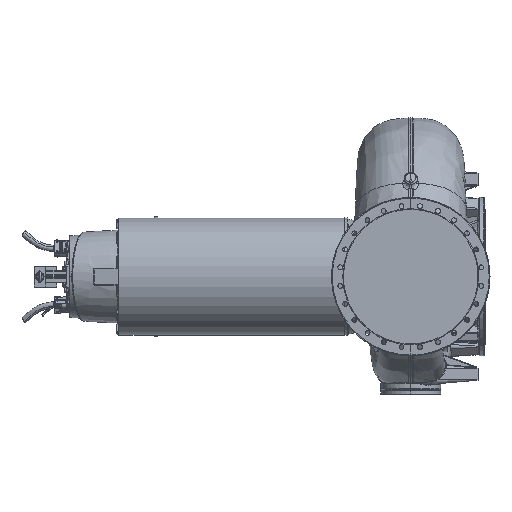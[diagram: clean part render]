
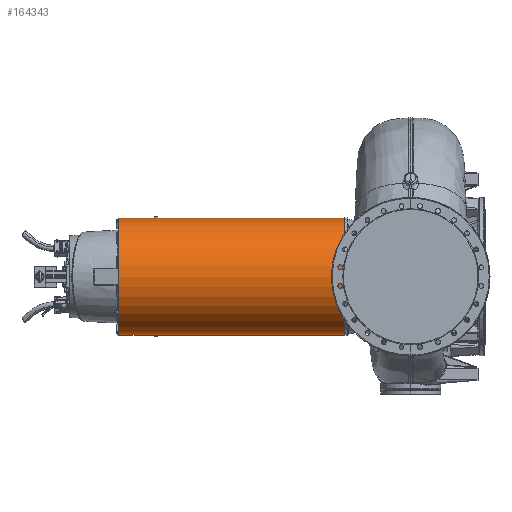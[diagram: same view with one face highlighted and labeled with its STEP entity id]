
A CAD part, left-side view. The second image highlights one B-rep face of the part: STEP entity #164343.
In plain terms, the highlighted cylindrical face has radius 391.5 mm (diameter 783 mm), a partial arc.
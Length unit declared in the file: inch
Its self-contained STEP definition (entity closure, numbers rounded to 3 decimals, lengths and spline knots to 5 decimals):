
#7380 = EDGE_CURVE ( 'NONE', #226743, #277040, #169925, .T. ) ;
#7594 = LINE ( 'NONE', #74207, #30099 ) ;
#8089 = VERTEX_POINT ( 'NONE', #119326 ) ;
#9248 = ORIENTED_EDGE ( 'NONE', *, *, #110161, .T. ) ;
#15208 = CARTESIAN_POINT ( 'NONE',  ( -0.37402, 67.30255, 15.40885 ) ) ;
#18709 = LINE ( 'NONE', #188247, #37288 ) ;
#18912 = FACE_OUTER_BOUND ( 'NONE', #35296, .T. ) ;
#28326 = EDGE_CURVE ( 'NONE', #269230, #98952, #147126, .T. ) ;
#30099 = VECTOR ( 'NONE', #52227, 39.37008 ) ;
#33262 = DIRECTION ( 'NONE',  ( 0., 0., 1. ) ) ;
#33633 = AXIS2_PLACEMENT_3D ( 'NONE', #125199, #173160, #33262 ) ;
#33972 = EDGE_CURVE ( 'NONE', #296854, #145871, #203126, .T. ) ;
#35296 = EDGE_LOOP ( 'NONE', ( #114167, #223470, #149708, #177903, #260466, #256831, #9248, #127943, #38079, #239497, #108626, #241133 ) ) ;
#37288 = VECTOR ( 'NONE', #189261, 39.37008 ) ;
#38079 = ORIENTED_EDGE ( 'NONE', *, *, #116270, .F. ) ;
#39060 = EDGE_CURVE ( 'NONE', #145871, #8089, #237482, .T. ) ;
#50132 = VECTOR ( 'NONE', #255671, 39.37008 ) ;
#50809 = B_SPLINE_CURVE_WITH_KNOTS ( 'NONE', 3,
 ( #219786, #199888, #196808, #56954 ),
 .UNSPECIFIED., .F., .F.,
 ( 4, 4 ),
 ( 0., 1. ),
 .UNSPECIFIED. ) ;
#52227 = DIRECTION ( 'NONE',  ( 0., 1., 0. ) ) ;
#52381 = CARTESIAN_POINT ( 'NONE',  ( 0., 82.4547, 15.41339 ) ) ;
#54625 = VECTOR ( 'NONE', #234504, 39.37008 ) ;
#56954 = CARTESIAN_POINT ( 'NONE',  ( -0.37402, 67.30255, -15.40885 ) ) ;
#60734 = DIRECTION ( 'NONE',  ( 0., 1., 0. ) ) ;
#63664 = CARTESIAN_POINT ( 'NONE',  ( 0., 17.32283, 15.41339 ) ) ;
#70212 = VERTEX_POINT ( 'NONE', #112661 ) ;
#71029 = VECTOR ( 'NONE', #60734, 39.37008 ) ;
#72514 = CARTESIAN_POINT ( 'NONE',  ( -0.12468, 67.44651, 15.41339 ) ) ;
#74207 = CARTESIAN_POINT ( 'NONE',  ( 0., 82.4547, -15.41339 ) ) ;
#76419 = DIRECTION ( 'NONE',  ( 0., 1., 0. ) ) ;
#78029 = CARTESIAN_POINT ( 'NONE',  ( -0.12468, 66.72672, -15.41339 ) ) ;
#79051 = CARTESIAN_POINT ( 'NONE',  ( -0.24937, 66.7987, -15.41187 ) ) ;
#85950 = CARTESIAN_POINT ( 'NONE',  ( 0., 17.32283, -15.41339 ) ) ;
#93290 = EDGE_CURVE ( 'NONE', #112917, #139243, #286093, .T. ) ;
#94910 = CARTESIAN_POINT ( 'NONE',  ( -0.37402, 66.87068, 15.40885 ) ) ;
#98937 = CARTESIAN_POINT ( 'NONE',  ( 0., 66.65474, -15.41339 ) ) ;
#98952 = VERTEX_POINT ( 'NONE', #178843 ) ;
#105613 = CARTESIAN_POINT ( 'NONE',  ( -0.37402, 82.4547, 15.40885 ) ) ;
#106937 = CARTESIAN_POINT ( 'NONE',  ( -0.24937, 66.7987, 15.41187 ) ) ;
#107379 = DIRECTION ( 'NONE',  ( 0., 1., 0. ) ) ;
#108626 = ORIENTED_EDGE ( 'NONE', *, *, #286737, .T. ) ;
#110161 = EDGE_CURVE ( 'NONE', #8089, #112917, #223212, .T. ) ;
#112661 = CARTESIAN_POINT ( 'NONE',  ( 0., 67.51849, -15.41339 ) ) ;
#112917 = VERTEX_POINT ( 'NONE', #121735 ) ;
#114167 = ORIENTED_EDGE ( 'NONE', *, *, #246429, .F. ) ;
#116270 = EDGE_CURVE ( 'NONE', #70212, #139243, #7594, .T. ) ;
#119326 = CARTESIAN_POINT ( 'NONE',  ( 0., 67.51849, 15.41339 ) ) ;
#121735 = CARTESIAN_POINT ( 'NONE',  ( 0., 76.92913, 15.41339 ) ) ;
#125016 = VECTOR ( 'NONE', #76419, 39.37008 ) ;
#125199 = CARTESIAN_POINT ( 'NONE',  ( 0., 76.92913, 0. ) ) ;
#127943 = ORIENTED_EDGE ( 'NONE', *, *, #93290, .T. ) ;
#139243 = VERTEX_POINT ( 'NONE', #220447 ) ;
#145090 = VERTEX_POINT ( 'NONE', #166139 ) ;
#145871 = VERTEX_POINT ( 'NONE', #15208 ) ;
#147126 = B_SPLINE_CURVE_WITH_KNOTS ( 'NONE', 3,
 ( #290927, #79051, #78029, #98937 ),
 .UNSPECIFIED., .F., .F.,
 ( 4, 4 ),
 ( 0., 1. ),
 .UNSPECIFIED. ) ;
#149708 = ORIENTED_EDGE ( 'NONE', *, *, #7380, .T. ) ;
#160934 = DIRECTION ( 'NONE',  ( 0., 1., 0. ) ) ;
#164343 = ADVANCED_FACE ( 'NONE', ( #18912 ), #194404, .T. ) ;
#164415 = LINE ( 'NONE', #252594, #71029 ) ;
#166139 = CARTESIAN_POINT ( 'NONE',  ( -0.37402, 67.30255, -15.40885 ) ) ;
#167459 = CARTESIAN_POINT ( 'NONE',  ( -0.37402, 67.30255, 15.40885 ) ) ;
#169925 = LINE ( 'NONE', #52381, #125016 ) ;
#173160 = DIRECTION ( 'NONE',  ( 0., -1., 0. ) ) ;
#174186 = CARTESIAN_POINT ( 'NONE',  ( 0., 17.32283, 0. ) ) ;
#177903 = ORIENTED_EDGE ( 'NONE', *, *, #199681, .T. ) ;
#178843 = CARTESIAN_POINT ( 'NONE',  ( 0., 66.65474, -15.41339 ) ) ;
#182793 = CARTESIAN_POINT ( 'NONE',  ( 0., 82.4547, 0. ) ) ;
#188247 = CARTESIAN_POINT ( 'NONE',  ( -0.37402, 82.4547, -15.40885 ) ) ;
#189261 = DIRECTION ( 'NONE',  ( 0., -1., 0. ) ) ;
#194404 = CYLINDRICAL_SURFACE ( 'NONE', #306772, 15.41339 ) ;
#196808 = CARTESIAN_POINT ( 'NONE',  ( -0.24937, 67.37453, -15.41187 ) ) ;
#199681 = EDGE_CURVE ( 'NONE', #277040, #296854, #257813, .T. ) ;
#199888 = CARTESIAN_POINT ( 'NONE',  ( -0.12468, 67.44651, -15.41339 ) ) ;
#203126 = LINE ( 'NONE', #105613, #50132 ) ;
#203519 = CARTESIAN_POINT ( 'NONE',  ( 0., 66.65474, 15.41339 ) ) ;
#204939 = CARTESIAN_POINT ( 'NONE',  ( -0.12468, 66.72672, 15.41339 ) ) ;
#206101 = CARTESIAN_POINT ( 'NONE',  ( -0.37402, 66.87068, -15.40885 ) ) ;
#206797 = DIRECTION ( 'NONE',  ( 0., 0., 1. ) ) ;
#209497 = DIRECTION ( 'NONE',  ( 0., 0., 1. ) ) ;
#214308 = AXIS2_PLACEMENT_3D ( 'NONE', #174186, #107379, #209497 ) ;
#219786 = CARTESIAN_POINT ( 'NONE',  ( 0., 67.51849, -15.41339 ) ) ;
#220447 = CARTESIAN_POINT ( 'NONE',  ( 0., 76.92913, -15.41339 ) ) ;
#223212 = LINE ( 'NONE', #305480, #54625 ) ;
#223470 = ORIENTED_EDGE ( 'NONE', *, *, #263064, .T. ) ;
#226743 = VERTEX_POINT ( 'NONE', #63664 ) ;
#227958 = CARTESIAN_POINT ( 'NONE',  ( -0.37402, 66.87068, 15.40885 ) ) ;
#234504 = DIRECTION ( 'NONE',  ( 0., 1., 0. ) ) ;
#237482 = B_SPLINE_CURVE_WITH_KNOTS ( 'NONE', 3,
 ( #167459, #260307, #72514, #285380 ),
 .UNSPECIFIED., .F., .F.,
 ( 4, 4 ),
 ( 0., 1. ),
 .UNSPECIFIED. ) ;
#239497 = ORIENTED_EDGE ( 'NONE', *, *, #284843, .T. ) ;
#241133 = ORIENTED_EDGE ( 'NONE', *, *, #28326, .T. ) ;
#246429 = EDGE_CURVE ( 'NONE', #256720, #98952, #164415, .T. ) ;
#252594 = CARTESIAN_POINT ( 'NONE',  ( 0., 82.4547, -15.41339 ) ) ;
#255671 = DIRECTION ( 'NONE',  ( 0., 1., 0. ) ) ;
#256720 = VERTEX_POINT ( 'NONE', #85950 ) ;
#256831 = ORIENTED_EDGE ( 'NONE', *, *, #39060, .T. ) ;
#257813 = B_SPLINE_CURVE_WITH_KNOTS ( 'NONE', 3,
 ( #297907, #204939, #106937, #227958 ),
 .UNSPECIFIED., .F., .F.,
 ( 4, 4 ),
 ( 0., 1. ),
 .UNSPECIFIED. ) ;
#259990 = CIRCLE ( 'NONE', #214308, 15.41339 ) ;
#260307 = CARTESIAN_POINT ( 'NONE',  ( -0.24937, 67.37453, 15.41187 ) ) ;
#260466 = ORIENTED_EDGE ( 'NONE', *, *, #33972, .T. ) ;
#263064 = EDGE_CURVE ( 'NONE', #256720, #226743, #259990, .T. ) ;
#269230 = VERTEX_POINT ( 'NONE', #206101 ) ;
#277040 = VERTEX_POINT ( 'NONE', #203519 ) ;
#284843 = EDGE_CURVE ( 'NONE', #70212, #145090, #50809, .T. ) ;
#285380 = CARTESIAN_POINT ( 'NONE',  ( 0., 67.51849, 15.41339 ) ) ;
#286093 = CIRCLE ( 'NONE', #33633, 15.41339 ) ;
#286737 = EDGE_CURVE ( 'NONE', #145090, #269230, #18709, .T. ) ;
#290927 = CARTESIAN_POINT ( 'NONE',  ( -0.37402, 66.87068, -15.40885 ) ) ;
#296854 = VERTEX_POINT ( 'NONE', #94910 ) ;
#297907 = CARTESIAN_POINT ( 'NONE',  ( 0., 66.65474, 15.41339 ) ) ;
#305480 = CARTESIAN_POINT ( 'NONE',  ( 0., 82.4547, 15.41339 ) ) ;
#306772 = AXIS2_PLACEMENT_3D ( 'NONE', #182793, #160934, #206797 ) ;
